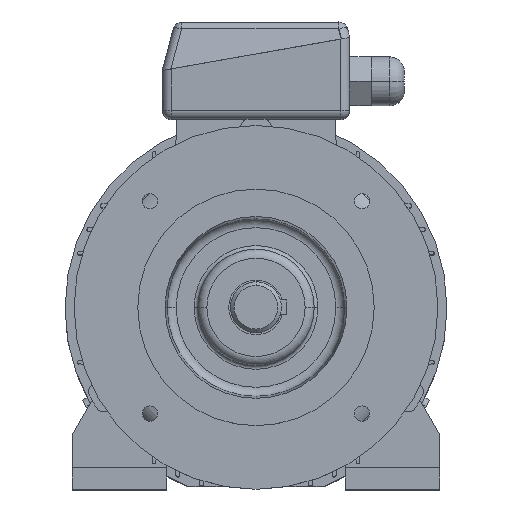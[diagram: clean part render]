
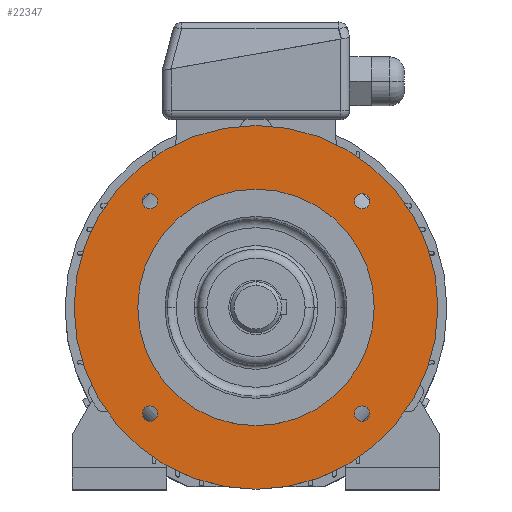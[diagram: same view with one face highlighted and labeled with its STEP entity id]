
A CAD part, top view. The second image highlights one B-rep face of the part: STEP entity #22347.
In plain terms, the highlighted planar face has unit normal (0, 0, 1).
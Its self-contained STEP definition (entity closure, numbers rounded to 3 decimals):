
#12 = CIRCLE ( 'NONE', #13, 4.2 ) ;
#13 = AXIS2_PLACEMENT_3D ( 'NONE', #14, #15, #16 ) ;
#14 = CARTESIAN_POINT ( 'NONE',  ( -58.336, -58.336, 45. ) ) ;
#15 = DIRECTION ( 'NONE',  ( 0., 0., 1. ) ) ;
#16 = DIRECTION ( 'NONE',  ( 1., 0., 0. ) ) ;
#191 = VERTEX_POINT ( 'NONE', #8776 ) ;
#307 = CARTESIAN_POINT ( 'NONE',  ( -62.536, 58.336, 45. ) ) ;
#600 = EDGE_LOOP ( 'NONE', ( #27608, #26251 ) ) ;
#912 = ORIENTED_EDGE ( 'NONE', *, *, #15373, .F. ) ;
#1580 = EDGE_CURVE ( 'NONE', #14906, #21179, #11380, .T. ) ;
#2054 = ORIENTED_EDGE ( 'NONE', *, *, #1580, .F. ) ;
#18638 = CARTESIAN_POINT ( 'NONE',  ( 62.536, -58.336, 45. ) ) ;
#2381 = EDGE_CURVE ( 'NONE', #20070, #10225, #13573, .T. ) ;
#18849 = CIRCLE ( 'NONE', #18850, 4.2 ) ;
#18850 = AXIS2_PLACEMENT_3D ( 'NONE', #18851, #18852, #18853 ) ;
#18851 = CARTESIAN_POINT ( 'NONE',  ( 58.336, -58.336, 45. ) ) ;
#18852 = DIRECTION ( 'NONE',  ( 0., 0., 1. ) ) ;
#18853 = DIRECTION ( 'NONE',  ( 1., 0., 0. ) ) ;
#2718 = EDGE_LOOP ( 'NONE', ( #2054, #912 ) ) ;
#3024 = ORIENTED_EDGE ( 'NONE', *, *, #24151, .F. ) ;
#19921 = EDGE_LOOP ( 'NONE', ( #3640, #3024 ) ) ;
#3640 = ORIENTED_EDGE ( 'NONE', *, *, #2381, .F. ) ;
#20070 = VERTEX_POINT ( 'NONE', #4545 ) ;
#20246 = EDGE_CURVE ( 'NONE', #9907, #22129, #4747, .T. ) ;
#20481 = CARTESIAN_POINT ( 'NONE',  ( 54.136, -58.336, 45. ) ) ;
#20723 = ORIENTED_EDGE ( 'NONE', *, *, #20246, .T. ) ;
#20816 = CIRCLE ( 'NONE', #20817, 4.2 ) ;
#20817 = AXIS2_PLACEMENT_3D ( 'NONE', #20818, #20819, #20820 ) ;
#20818 = CARTESIAN_POINT ( 'NONE',  ( -58.336, 58.336, 45. ) ) ;
#20819 = DIRECTION ( 'NONE',  ( 0., 0., 1. ) ) ;
#20820 = DIRECTION ( 'NONE',  ( 1., 0., 0. ) ) ;
#4545 = CARTESIAN_POINT ( 'NONE',  ( -100., 0., 45. ) ) ;
#4747 = CIRCLE ( 'NONE', #4748, 65. ) ;
#4748 = AXIS2_PLACEMENT_3D ( 'NONE', #4761, #4762, #4763 ) ;
#4761 = CARTESIAN_POINT ( 'NONE',  ( 0., 0., 45. ) ) ;
#4762 = DIRECTION ( 'NONE',  ( 0., 0., -1. ) ) ;
#4763 = DIRECTION ( 'NONE',  ( -1., 0., 0. ) ) ;
#21179 = VERTEX_POINT ( 'NONE', #6101 ) ;
#21375 = ORIENTED_EDGE ( 'NONE', *, *, #14726, .T. ) ;
#5288 = VERTEX_POINT ( 'NONE', #18638 ) ;
#5582 = EDGE_CURVE ( 'NONE', #6928, #5288, #18849, .T. ) ;
#21966 = CIRCLE ( 'NONE', #21967, 4.2 ) ;
#21967 = AXIS2_PLACEMENT_3D ( 'NONE', #21968, #21969, #21970 ) ;
#21968 = CARTESIAN_POINT ( 'NONE',  ( -58.336, 58.336, 45. ) ) ;
#21969 = DIRECTION ( 'NONE',  ( 0., 0., 1. ) ) ;
#21970 = DIRECTION ( 'NONE',  ( 1., 0., 0. ) ) ;
#22028 = EDGE_LOOP ( 'NONE', ( #21375, #20723 ) ) ;
#22129 = VERTEX_POINT ( 'NONE', #7215 ) ;
#22347 = ADVANCED_FACE ( 'NONE', ( #7532, #7533, #7534, #7535, #7536, #7537 ), #7538, .T. ) ;
#6101 = CARTESIAN_POINT ( 'NONE',  ( -62.536, -58.336, 45. ) ) ;
#6467 = ORIENTED_EDGE ( 'NONE', *, *, #8024, .F. ) ;
#6928 = VERTEX_POINT ( 'NONE', #20481 ) ;
#7136 = EDGE_CURVE ( 'NONE', #25970, #15977, #20816, .T. ) ;
#7215 = CARTESIAN_POINT ( 'NONE',  ( -65., 0., 45. ) ) ;
#23747 = CIRCLE ( 'NONE', #23748, 4.2 ) ;
#23748 = AXIS2_PLACEMENT_3D ( 'NONE', #23749, #23750, #23751 ) ;
#23749 = CARTESIAN_POINT ( 'NONE',  ( 58.336, 58.336, 45. ) ) ;
#23750 = DIRECTION ( 'NONE',  ( 0., 0., 1. ) ) ;
#23751 = DIRECTION ( 'NONE',  ( 1., 0., 0. ) ) ;
#23859 = CARTESIAN_POINT ( 'NONE',  ( 65., 0., 45. ) ) ;
#7532 = FACE_BOUND ( 'NONE', #22028, .T. ) ;
#7533 = FACE_OUTER_BOUND ( 'NONE', #19921, .T. ) ;
#7534 = FACE_BOUND ( 'NONE', #2718, .T. ) ;
#7535 = FACE_BOUND ( 'NONE', #600, .T. ) ;
#7536 = FACE_BOUND ( 'NONE', #25942, .T. ) ;
#7537 = FACE_BOUND ( 'NONE', #8260, .T. ) ;
#7538 = PLANE ( 'NONE',  #7539 ) ;
#7539 = AXIS2_PLACEMENT_3D ( 'NONE', #7540, #7541, #7542 ) ;
#7540 = CARTESIAN_POINT ( 'NONE',  ( -100., 0., 45. ) ) ;
#7541 = DIRECTION ( 'NONE',  ( 0., 0., 1. ) ) ;
#7542 = DIRECTION ( 'NONE',  ( 1., 0., 0. ) ) ;
#7604 = ORIENTED_EDGE ( 'NONE', *, *, #7136, .F. ) ;
#24097 = CARTESIAN_POINT ( 'NONE',  ( 100., 0., 45. ) ) ;
#24151 = EDGE_CURVE ( 'NONE', #10225, #20070, #10013, .T. ) ;
#8024 = EDGE_CURVE ( 'NONE', #15977, #25970, #21966, .T. ) ;
#8260 = EDGE_LOOP ( 'NONE', ( #7604, #6467 ) ) ;
#8571 = ORIENTED_EDGE ( 'NONE', *, *, #26716, .F. ) ;
#8776 = CARTESIAN_POINT ( 'NONE',  ( 54.136, 58.336, 45. ) ) ;
#25942 = EDGE_LOOP ( 'NONE', ( #10422, #8571 ) ) ;
#25970 = VERTEX_POINT ( 'NONE', #13432 ) ;
#9639 = EDGE_CURVE ( 'NONE', #26431, #191, #23747, .T. ) ;
#26251 = ORIENTED_EDGE ( 'NONE', *, *, #5582, .F. ) ;
#9907 = VERTEX_POINT ( 'NONE', #23859 ) ;
#10013 = CIRCLE ( 'NONE', #10014, 100. ) ;
#10014 = AXIS2_PLACEMENT_3D ( 'NONE', #10015, #10016, #10017 ) ;
#10015 = CARTESIAN_POINT ( 'NONE',  ( 0., 0., 45. ) ) ;
#10016 = DIRECTION ( 'NONE',  ( 0., 0., -1. ) ) ;
#10017 = DIRECTION ( 'NONE',  ( -1., 0., 0. ) ) ;
#26431 = VERTEX_POINT ( 'NONE', #14100 ) ;
#10225 = VERTEX_POINT ( 'NONE', #24097 ) ;
#26716 = EDGE_CURVE ( 'NONE', #191, #26431, #14858, .T. ) ;
#10422 = ORIENTED_EDGE ( 'NONE', *, *, #9639, .F. ) ;
#27136 = EDGE_CURVE ( 'NONE', #5288, #6928, #15813, .T. ) ;
#27344 = CIRCLE ( 'NONE', #27345, 65. ) ;
#27345 = AXIS2_PLACEMENT_3D ( 'NONE', #27346, #27347, #27348 ) ;
#27346 = CARTESIAN_POINT ( 'NONE',  ( 0., 0., 45. ) ) ;
#27347 = DIRECTION ( 'NONE',  ( 0., 0., -1. ) ) ;
#27348 = DIRECTION ( 'NONE',  ( -1., 0., 0. ) ) ;
#27411 = CARTESIAN_POINT ( 'NONE',  ( -54.136, -58.336, 45. ) ) ;
#27608 = ORIENTED_EDGE ( 'NONE', *, *, #27136, .F. ) ;
#11380 = CIRCLE ( 'NONE', #11381, 4.2 ) ;
#11381 = AXIS2_PLACEMENT_3D ( 'NONE', #11382, #11402, #11403 ) ;
#11382 = CARTESIAN_POINT ( 'NONE',  ( -58.336, -58.336, 45. ) ) ;
#11402 = DIRECTION ( 'NONE',  ( 0., 0., 1. ) ) ;
#11403 = DIRECTION ( 'NONE',  ( 1., 0., 0. ) ) ;
#13432 = CARTESIAN_POINT ( 'NONE',  ( -54.136, 58.336, 45. ) ) ;
#13573 = CIRCLE ( 'NONE', #13574, 100. ) ;
#13574 = AXIS2_PLACEMENT_3D ( 'NONE', #13575, #13576, #13577 ) ;
#13575 = CARTESIAN_POINT ( 'NONE',  ( 0., 0., 45. ) ) ;
#13576 = DIRECTION ( 'NONE',  ( 0., 0., -1. ) ) ;
#13577 = DIRECTION ( 'NONE',  ( -1., 0., 0. ) ) ;
#14100 = CARTESIAN_POINT ( 'NONE',  ( 62.536, 58.336, 45. ) ) ;
#14726 = EDGE_CURVE ( 'NONE', #22129, #9907, #27344, .T. ) ;
#14858 = CIRCLE ( 'NONE', #14859, 4.2 ) ;
#14859 = AXIS2_PLACEMENT_3D ( 'NONE', #14860, #14861, #14862 ) ;
#14860 = CARTESIAN_POINT ( 'NONE',  ( 58.336, 58.336, 45. ) ) ;
#14861 = DIRECTION ( 'NONE',  ( 0., 0., 1. ) ) ;
#14862 = DIRECTION ( 'NONE',  ( 1., 0., 0. ) ) ;
#14906 = VERTEX_POINT ( 'NONE', #27411 ) ;
#15373 = EDGE_CURVE ( 'NONE', #21179, #14906, #12, .T. ) ;
#15813 = CIRCLE ( 'NONE', #15814, 4.2 ) ;
#15814 = AXIS2_PLACEMENT_3D ( 'NONE', #15815, #15842, #15843 ) ;
#15815 = CARTESIAN_POINT ( 'NONE',  ( 58.336, -58.336, 45. ) ) ;
#15842 = DIRECTION ( 'NONE',  ( 0., 0., 1. ) ) ;
#15843 = DIRECTION ( 'NONE',  ( 1., 0., 0. ) ) ;
#15977 = VERTEX_POINT ( 'NONE', #307 ) ;
